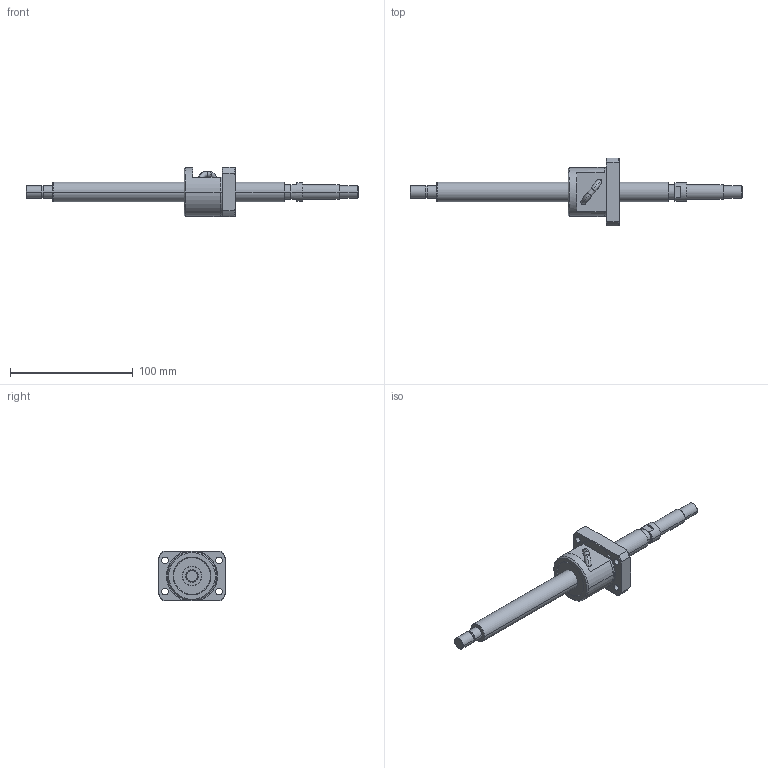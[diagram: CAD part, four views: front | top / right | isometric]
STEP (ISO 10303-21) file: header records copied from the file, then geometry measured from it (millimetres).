
FILE_DESCRIPTION (( 'STEP AP214' ), '1' );
FILE_NAME ('BS1605A-3D.STEP', '2014-03-05T14:50:32', ( '' ), ( '' ), 'SwSTEP 2.0', 'SolidWorks 2012', '' );
FILE_SCHEMA (( 'AUTOMOTIVE_DESIGN' ));
Length unit declared in the file: millimetre
Products named in the file (3): BS1605Aナット; BS1605AŽ²; BS1605A-3D
Assembly tree (2 placements, depth 2):
  BS1605A-3D
    BS1605AŽ²
    BS1605Aナット
Bounding box: 271 x 55 x 40 mm (x, y, z)
Volume: 92710.5 mm3; surface area: 27534.1 mm2
Topology: 2 solids, 2 shells, 159 faces, 408 edges, 262 vertices
Faces by surface type: cylinder 73, plane 42, cone 38, torus 4, bspline 2
Entity records: 6253 total; most frequent: CARTESIAN_POINT 2138, DIRECTION 850, ORIENTED_EDGE 812, EDGE_CURVE 406, AXIS2_PLACEMENT_3D 352, VERTEX_POINT 262, EDGE_LOOP 190, CIRCLE 190
